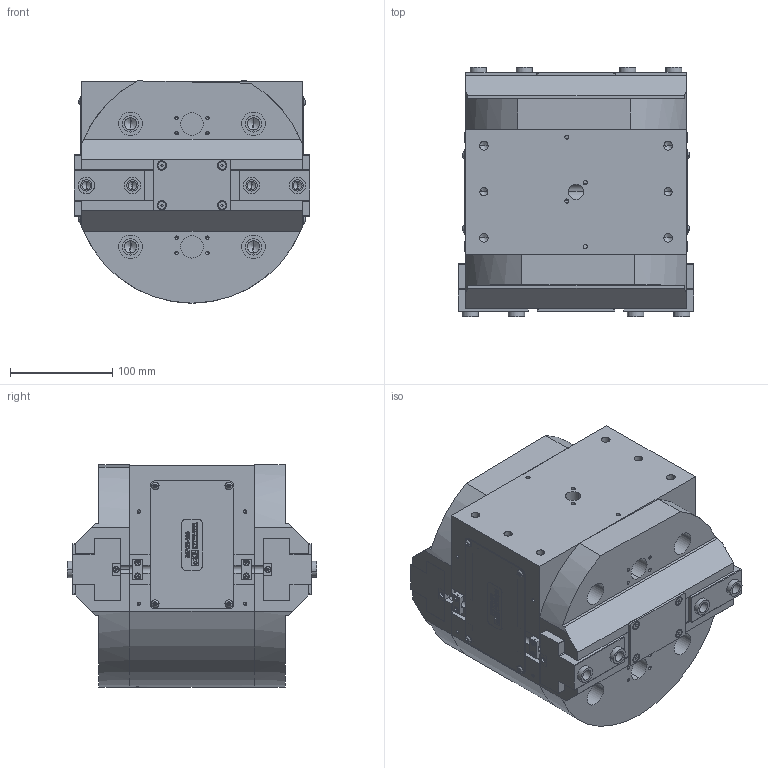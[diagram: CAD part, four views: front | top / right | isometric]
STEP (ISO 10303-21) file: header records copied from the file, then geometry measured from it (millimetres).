
FILE_DESCRIPTION (( 'STEP AP214' ), '1' );
FILE_NAME ('D2PG2 200.STEP', '2012-03-06T00:55:08', ( 'xw4600' ), ( '' ), 'SwSTEP 2.0', 'SolidWorks 2010', '' );
FILE_SCHEMA (( 'AUTOMOTIVE_DESIGN' ));
Length unit declared in the file: millimetre
Products named in the file (19): DW0504-D2PG2 200-01_Default; DW0504-D2PG2 200-11_ル遽; DW0504-D2PG2 200-02_Default; DW0504-D2PG2 200-04_Default; DW0504-D2PG2 200-08_Default; DW0504-D2PG2 200-09_Default; DW0504-D2PG2 200-07_Default; DW0504-D2PG2 200-06_Default; DW0504-D2PG2 200-10_ル遽; D2PG2-200-SPRING_Default; Countersunk Head Screw_ISO 10642 - M4 x 12 --- 12N; socket button head screw_ISO 7380 - M4 x 12 --- 12N; socket head cap screw_ISO 4762 M3 x 8 --- 8N; Countersunk Head Screw_ISO 10642 - M4 x 8 --- 8N; mark(D2pg2-200)_Default; O-RING(S120)_Default; Q-RING(4214)_Default; socket head cap screw_ISO 4762 M3 x 30 --- 18N; D2PG2 200
Assembly tree (65 placements, depth 2):
  D2PG2 200
    DW0504-D2PG2 200-10_ル遽  x8
    DW0504-D2PG2 200-04_Default  x4
    Countersunk Head Screw_ISO 10642 - M4 x 12 --- 12N  x4
    Countersunk Head Screw_ISO 10642 - M4 x 8 --- 8N  x4
    DW0504-D2PG2 200-06_Default  x4
    DW0504-D2PG2 200-07_Default  x2
    D2PG2-200-SPRING_Default  x4
    socket button head screw_ISO 7380 - M4 x 12 --- 12N  x8
    O-RING(S120)_Default  x2
    DW0504-D2PG2 200-02_Default  x2
    socket head cap screw_ISO 4762 M3 x 8 --- 8N  x8
    Q-RING(4214)_Default  x2
    DW0504-D2PG2 200-09_Default  x2
    DW0504-D2PG2 200-01_Default
    mark(D2pg2-200)_Default  x2
    DW0504-D2PG2 200-11_ル遽  x2
    socket head cap screw_ISO 4762 M3 x 30 --- 18N  x4
    DW0504-D2PG2 200-08_Default  x2
Bounding box: 230.45 x 244 x 217.12 mm (x, y, z)
Volume: 6258013.5 mm3; surface area: 801544.6 mm2
Topology: 65 solids, 67 shells, 3729 faces, 9296 edges, 5858 vertices
Faces by surface type: plane 1985, cylinder 620, bspline 606, cone 318, torus 184, sphere 16
Entity records: 79373 total; most frequent: CARTESIAN_POINT 29956, ORIENTED_EDGE 8130, DIRECTION 7015, EDGE_CURVE 4065, LINE 2657, VECTOR 2657, VERTEX_POINT 2646, AXIS2_PLACEMENT_3D 2179
